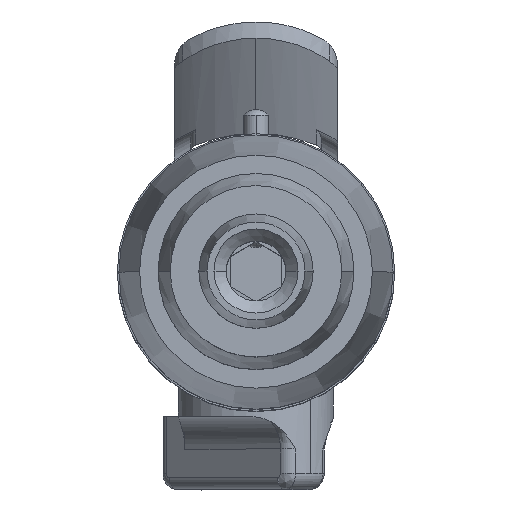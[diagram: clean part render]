
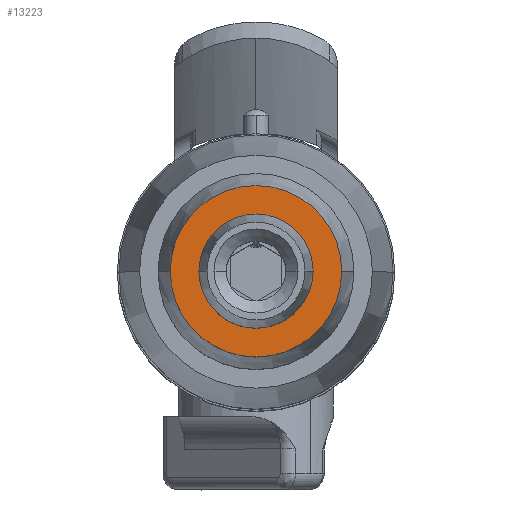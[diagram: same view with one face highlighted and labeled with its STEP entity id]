
A CAD part, top view. The second image highlights one B-rep face of the part: STEP entity #13223.
In plain terms, the highlighted planar face has unit normal (0, 0, 1).
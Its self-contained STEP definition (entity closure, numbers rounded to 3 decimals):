
#5366 = CARTESIAN_POINT ( 'NONE',  ( 10.5, 0., 0. ) ) ;
#5367 = DIRECTION ( 'NONE',  ( 1., 0., 0. ) ) ;
#5368 = DIRECTION ( 'NONE',  ( 0., 0., 1. ) ) ;
#5369 = CARTESIAN_POINT ( 'NONE',  ( 0., 0., 0. ) ) ;
#5370 = AXIS2_PLACEMENT_3D ( 'NONE', #5369, #5368, #5367 ) ;
#5371 = CIRCLE ( 'NONE', #5370, 10.5 ) ;
#5372 = CARTESIAN_POINT ( 'NONE',  ( -10.5, 0., 0. ) ) ;
#5434 = CARTESIAN_POINT ( 'NONE',  ( 7., 0., 0. ) ) ;
#5435 = DIRECTION ( 'NONE',  ( 1., 0., 0. ) ) ;
#5436 = DIRECTION ( 'NONE',  ( 0., 0., 1. ) ) ;
#5437 = CARTESIAN_POINT ( 'NONE',  ( 0., 0., 0. ) ) ;
#5438 = AXIS2_PLACEMENT_3D ( 'NONE', #5437, #5436, #5435 ) ;
#5439 = CIRCLE ( 'NONE', #5438, 7. ) ;
#5440 = CARTESIAN_POINT ( 'NONE',  ( -7., 0., 0. ) ) ;
#5614 = DIRECTION ( 'NONE',  ( 1., 0., 0. ) ) ;
#5615 = DIRECTION ( 'NONE',  ( 0., 0., 1. ) ) ;
#5616 = CARTESIAN_POINT ( 'NONE',  ( 0., 0., 0. ) ) ;
#5617 = AXIS2_PLACEMENT_3D ( 'NONE', #5616, #5615, #5614 ) ;
#5618 = CIRCLE ( 'NONE', #5617, 10.5 ) ;
#5619 = DIRECTION ( 'NONE',  ( -1., 0., 0. ) ) ;
#5620 = DIRECTION ( 'NONE',  ( 0., 0., -1. ) ) ;
#5621 = CARTESIAN_POINT ( 'NONE',  ( 0., 7., 0. ) ) ;
#5622 = AXIS2_PLACEMENT_3D ( 'NONE', #5621, #5620, #5619 ) ;
#5623 = PLANE ( 'NONE',  #5622 ) ;
#5624 = FACE_OUTER_BOUND ( 'NONE', #13227, .T. ) ;
#5625 = DIRECTION ( 'NONE',  ( 1., 0., 0. ) ) ;
#5626 = DIRECTION ( 'NONE',  ( 0., 0., 1. ) ) ;
#5627 = CARTESIAN_POINT ( 'NONE',  ( 0., 0., 0. ) ) ;
#5628 = AXIS2_PLACEMENT_3D ( 'NONE', #5627, #5626, #5625 ) ;
#5629 = CIRCLE ( 'NONE', #5628, 7. ) ;
#5630 = FACE_BOUND ( 'NONE', #13224, .T. ) ;
#13057 = VERTEX_POINT ( 'NONE', #5372 ) ;
#13059 = EDGE_CURVE ( 'NONE', #13060, #13057, #5371, .T. ) ;
#13060 = VERTEX_POINT ( 'NONE', #5366 ) ;
#13097 = VERTEX_POINT ( 'NONE', #5440 ) ;
#13099 = EDGE_CURVE ( 'NONE', #13097, #13100, #5439, .T. ) ;
#13100 = VERTEX_POINT ( 'NONE', #5434 ) ;
#13222 = EDGE_CURVE ( 'NONE', #13100, #13097, #5629, .T. ) ;
#13223 = ADVANCED_FACE ( 'NONE', ( #5630, #5624 ), #5623, .F. ) ;
#13224 = EDGE_LOOP ( 'NONE', ( #13225, #13226 ) ) ;
#13225 = ORIENTED_EDGE ( 'NONE', *, *, #13222, .F. ) ;
#13226 = ORIENTED_EDGE ( 'NONE', *, *, #13099, .F. ) ;
#13227 = EDGE_LOOP ( 'NONE', ( #13228, #13229 ) ) ;
#13228 = ORIENTED_EDGE ( 'NONE', *, *, #13059, .T. ) ;
#13229 = ORIENTED_EDGE ( 'NONE', *, *, #13230, .T. ) ;
#13230 = EDGE_CURVE ( 'NONE', #13057, #13060, #5618, .T. ) ;
